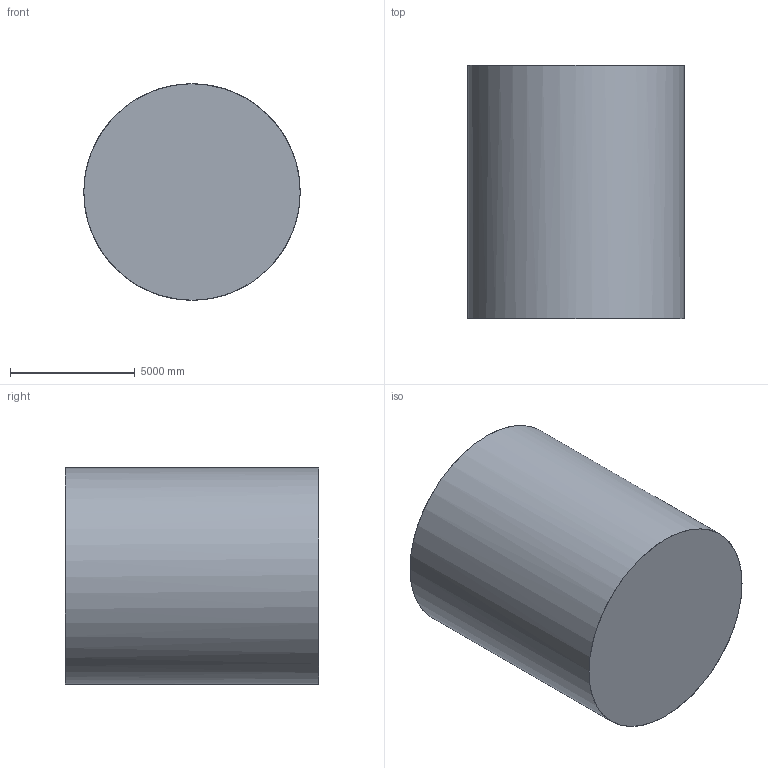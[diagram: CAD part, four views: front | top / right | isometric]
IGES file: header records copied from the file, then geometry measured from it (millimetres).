
Global section: file name: Z:\prj2.1\wind_tunnels\NTF\outgoing\NTF_Rumsey_October_2023\NTF_Arc_Sector_Rotational_Axis_Cylinder_2023_10_02.stp.igs; native system: NX V12.0; preprocessor: SIEMENS PLM Software NX 12.0; date: 20231003.102930; units: inch
Bounding box: 8686.8 x 10160 x 8686.8 mm (x, y, z)
Surface area: 396338269.8 mm2 (no closed solid volume)
Topology: 0 solids, 0 shells, 3 faces, 134 edges, 134 vertices
Faces by surface type: bspline 3
